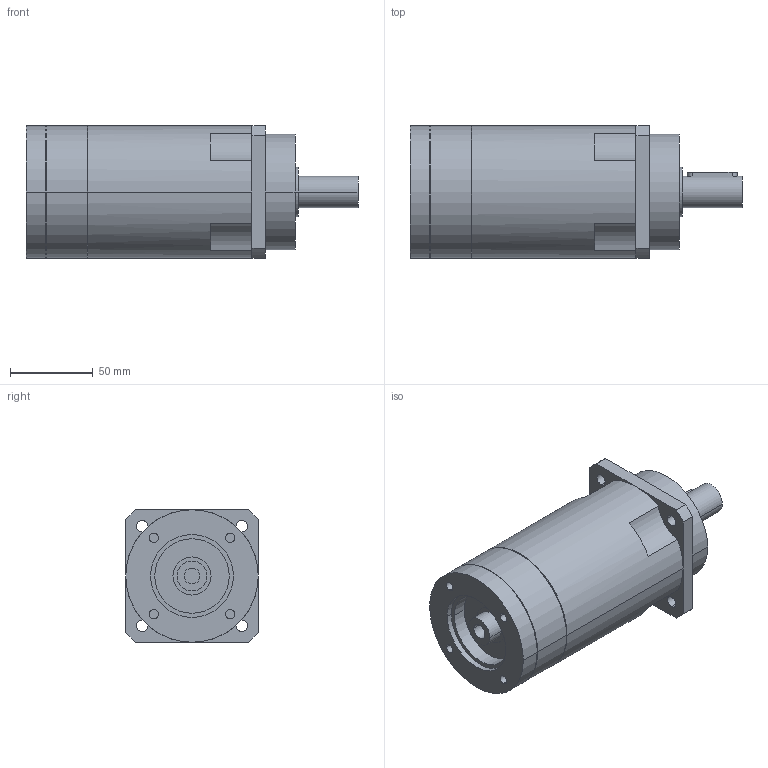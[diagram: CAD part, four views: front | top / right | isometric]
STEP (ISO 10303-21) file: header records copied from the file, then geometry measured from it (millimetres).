
FILE_DESCRIPTION(('CoCreate Modeling STEP Export'),'2;1');
FILE_NAME('GPR100_ig-48-64-80-100-120-144-180-216_19_B5_9.52_P10.stp','2014-08-26T11:57:43',(''),(''),'CoCreate Modeling STEP processor for AP214 (Solid Model)','CoCreate Modeling 16.00C 25-Feb-2009 (C) Parametric Technology GmbH','');
FILE_SCHEMA(('AUTOMOTIVE_DESIGN { 1 0 10303 214 1 1 1 1 }'));
Length unit declared in the file: millimetre
Products named in the file (2): GPR100_ig-48-64-80-100-120-144-180-216_19_B5_9.52_P10
Assembly tree (1 placements, depth 2):
  GPR100_ig-48-64-80-100-120-144-180-216_19_B5_9.52_P10
    GPR100_ig-48-64-80-100-120-144-180-216_19_B5_9.52_P10
Bounding box: 200.4 x 80 x 80 mm (x, y, z)
Volume: 785742.8 mm3; surface area: 61906.2 mm2
Topology: 1 solids, 1 shells, 99 faces, 256 edges, 176 vertices
Faces by surface type: cylinder 58, plane 35, cone 6
Entity records: 2674 total; most frequent: ORIENTED_EDGE 508, CARTESIAN_POINT 478, DIRECTION 386, EDGE_CURVE 254, VERTEX_POINT 176, AXIS2_PLACEMENT_3D 148, EDGE_LOOP 126, FACE_OUTER_BOUND 99
